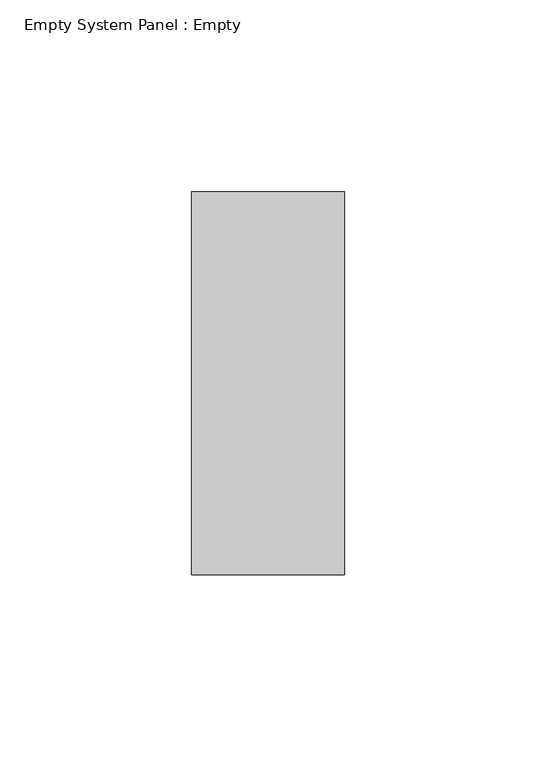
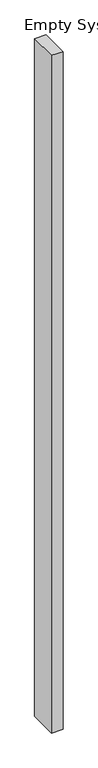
"""IFC4 building model written with IfcOpenShell, lengths in millimetres: plate geometry, Empty System Panel : Empty."""

import ifcopenshell
import ifcopenshell.guid

model = None  # the IFC model being written
_history = None  # IfcOwnerHistory: only IFC2X3 demands one
_inside = {}  # id of a spatial element -> (the spatial element, [elements in it])
_under = {}  # id of a project, library or spatial element -> (it, [spatial elements below it])
_declared = {}  # id of a project -> (the project, [libraries it declares])
_typed = {}  # id of a type object -> (the type object, [elements of that type])
_made_of = {}  # id of a material, layer set ... -> (it, [elements and type objects made of it])


def new_model(schema):
    """Start an empty IFC model of exactly this schema.

    Asked for "IFC4X3", IfcOpenShell would pick the latest addendum, in which some entities
    have other attributes; the version numbers below select the first issue.
    IFC2X3 requires an IfcOwnerHistory on every rooted entity: one is made here for all.
    """
    global model, _history
    if schema == "IFC4X3":
        model = ifcopenshell.file(schema_version=(4, 3, 0, 0))
    else:
        model = ifcopenshell.file(schema=schema)
    _inside.clear()
    _under.clear()
    _declared.clear()
    _typed.clear()
    _made_of.clear()
    _history = None
    if model.schema == "IFC2X3":
        org = make("IfcOrganization", Name="unknown")
        user = make(
            "IfcPersonAndOrganization",
            ThePerson=make("IfcPerson", FamilyName="unknown"),
            TheOrganization=org,
        )
        app = make(
            "IfcApplication",
            ApplicationDeveloper=org,
            Version="unknown",
            ApplicationFullName="unknown",
            ApplicationIdentifier="unknown",
        )
        _history = make(
            "IfcOwnerHistory",
            OwningUser=user,
            OwningApplication=app,
            ChangeAction="ADDED",
            CreationDate=0,
        )
    return model


def make(cls, **values):
    """One entity of the class cls with the attributes given. An attribute that is None is left unset."""
    return model.create_entity(
        cls, **{name: value for name, value in values.items() if value is not None}
    )


def rooted(cls, **values):
    """An entity with a GlobalId (a new one), such as an element, a storey or a relation."""
    return make(cls, GlobalId=ifcopenshell.guid.new(), OwnerHistory=_history, **values)


def si_unit(unit_type, name, prefix=None):
    """IfcSIUnit, for example si_unit("LENGTHUNIT", "METRE", prefix="MILLI")."""
    return make("IfcSIUnit", UnitType=unit_type, Prefix=prefix, Name=name)


def assignment(units):
    """IfcUnitAssignment: the units of a project."""
    return None if units is None else make("IfcUnitAssignment", Units=units)


def point(xyz):
    """IfcCartesianPoint."""
    return None if xyz is None else make("IfcCartesianPoint", Coordinates=xyz)


def direction(xyz):
    """IfcDirection."""
    return None if xyz is None else make("IfcDirection", DirectionRatios=xyz)


def frame(location, z_axis=None, x_axis=None):
    """IfcAxis2Placement3D, a coordinate frame: its origin and axes. An axis left out is left unset."""
    return make(
        "IfcAxis2Placement3D",
        Location=point(location),
        Axis=direction(z_axis),
        RefDirection=direction(x_axis),
    )


def origin():
    """The frame at (0, 0, 0) with its axes left unset."""
    return frame((0.0, 0.0, 0.0))


def origin_with_axes():
    """The frame at (0, 0, 0) with the z axis (0, 0, 1) and the x axis (1, 0, 0) written out."""
    return frame((0.0, 0.0, 0.0), z_axis=(0.0, 0.0, 1.0), x_axis=(1.0, 0.0, 0.0))


def place(relative_to, where):
    """IfcLocalPlacement: puts the frame where relative to a parent placement (None: the world)."""
    return make(
        "IfcLocalPlacement", PlacementRelTo=relative_to, RelativePlacement=where
    )


def context(
    kind, dimensions, precision=None, world=None, true_north=None, identifier=None
):
    """IfcGeometricRepresentationContext, for example the 3D "Model" context."""
    return make(
        "IfcGeometricRepresentationContext",
        ContextIdentifier=identifier,
        ContextType=kind,
        CoordinateSpaceDimension=dimensions,
        Precision=precision,
        WorldCoordinateSystem=world,
        TrueNorth=true_north,
    )


def project(units=None, contexts=None):
    """IfcProject with its units and contexts."""
    return rooted(
        "IfcProject",
        Name="project",
        RepresentationContexts=contexts,
        UnitsInContext=assignment(units),
    )


def spatial(cls, under=None, at=None, **own):
    """A site, building, storey or space (cls), placed at a placement, below another one or the project."""
    s = rooted(cls, ObjectPlacement=at, **own)
    if under is not None:
        _under.setdefault(under.id(), (under, []))[1].append(s)
    return s


def polyline(points):
    """IfcPolyline through the points."""
    return make("IfcPolyline", Points=[point(p) for p in points])


def outline(outer, holes=None, kind="AREA"):
    """IfcArbitraryClosedProfileDef: a profile drawn as a closed curve; with holes, ...WithVoids."""
    if holes is None:
        return make("IfcArbitraryClosedProfileDef", ProfileType=kind, OuterCurve=outer)
    return make(
        "IfcArbitraryProfileDefWithVoids",
        ProfileType=kind,
        OuterCurve=outer,
        InnerCurves=holes,
    )


def extrude(swept, where, along, depth):
    """IfcExtrudedAreaSolid: the profile swept, set in the frame where, extruded along a direction by depth."""
    return make(
        "IfcExtrudedAreaSolid",
        SweptArea=swept,
        Position=where,
        ExtrudedDirection=direction(along),
        Depth=depth,
    )


def shape(context_of_items, identifier, shape_type, items):
    """IfcShapeRepresentation: the items that make up one representation, for example the "Body"."""
    return make(
        "IfcShapeRepresentation",
        ContextOfItems=context_of_items,
        RepresentationIdentifier=identifier,
        RepresentationType=shape_type,
        Items=items,
    )


def source(mapping_origin, context_of_items, identifier, shape_type, items):
    """IfcRepresentationMap: a shape defined once, which mapped items show again and again."""
    return make(
        "IfcRepresentationMap",
        MappingOrigin=mapping_origin,
        MappedRepresentation=shape(context_of_items, identifier, shape_type, items),
    )


def transform(
    local_origin,
    x_axis=None,
    y_axis=None,
    z_axis=None,
    scale=None,
    scale2=None,
    scale3=None,
    uniform=True,
):
    """IfcCartesianTransformationOperator3D, or its non-uniform kind. x_axis, y_axis, z_axis: its Axis1, 2, 3."""
    if uniform:
        return make(
            "IfcCartesianTransformationOperator3D",
            Axis1=direction(x_axis),
            Axis2=direction(y_axis),
            LocalOrigin=point(local_origin),
            Scale=scale,
            Axis3=direction(z_axis),
        )
    return make(
        "IfcCartesianTransformationOperator3DnonUniform",
        Axis1=direction(x_axis),
        Axis2=direction(y_axis),
        LocalOrigin=point(local_origin),
        Scale=scale,
        Axis3=direction(z_axis),
        Scale2=scale2,
        Scale3=scale3,
    )


def mapped(mapping_source, mapping_target):
    """IfcMappedItem: shows the shape of a source again, moved by a transform."""
    return make(
        "IfcMappedItem", MappingSource=mapping_source, MappingTarget=mapping_target
    )


def made_of(thing, what):
    """Note that an element or type object is made of a material, layer set ...; save() writes the relation."""
    if what is not None:
        _made_of.setdefault(what.id(), (what, []))[1].append(thing)
    return thing


def element(
    cls,
    number,
    at=None,
    inside=None,
    cuts=None,
    type_object=None,
    material=None,
    context=None,
    identifier="Body",
    shape_type=None,
    held_by="IfcProductDefinitionShape",
    body=None,
    shapes=None,
    **own,
):
    """One element of the class cls, such as IfcWall. Its Tag is "e" and its number.

    at: its placement. inside: the storey or other place that contains it. cuts: it is an
    opening in that element (IfcRelVoidsElement). A single representation is given by context,
    identifier, shape_type and body (its items); several are given by shapes. held_by: the class
    of the entity that holds the representations. save() writes the other relations.
    """
    e = rooted(cls, Tag="e%d" % number, ObjectPlacement=at, **own)
    if body is not None:
        shapes = [shape(context, identifier, shape_type, body)]
    if shapes is not None:
        e.Representation = make(held_by, Representations=shapes)
    if inside is not None:
        _inside.setdefault(inside.id(), (inside, []))[1].append(e)
    if cuts is not None:
        rooted(
            "IfcRelVoidsElement", RelatingBuildingElement=cuts, RelatedOpeningElement=e
        )
    if type_object is not None:
        _typed.setdefault(type_object.id(), (type_object, []))[1].append(e)
    return made_of(e, material)


def aggregate(whole, parts):
    """IfcRelAggregates: a whole, such as a stair, and the parts it consists of."""
    return rooted("IfcRelAggregates", RelatingObject=whole, RelatedObjects=parts)


def save(model, path):
    """Write the relations noted so far, then the file.

    IfcRelAggregates (storeys below a building ...), IfcRelContainedInSpatialStructure (elements
    in a storey), IfcRelDefinesByType, IfcRelAssociatesMaterial and IfcRelDeclares: one each for
    every whole, place, type object, material and project.
    """
    for whole, parts in _under.values():
        aggregate(whole, parts)
    for where, things in _inside.values():
        rooted(
            "IfcRelContainedInSpatialStructure",
            RelatedElements=things,
            RelatingStructure=where,
        )
    for kind, things in _typed.values():
        rooted("IfcRelDefinesByType", RelatedObjects=things, RelatingType=kind)
    for what, things in _made_of.values():
        rooted("IfcRelAssociatesMaterial", RelatedObjects=things, RelatingMaterial=what)
    for by, libraries in _declared.values():
        rooted("IfcRelDeclares", RelatingContext=by, RelatedDefinitions=libraries)
    model.write(path)


def empty_system_panel_empty_eeb1d5fd(model_context):
    return source(origin(), model_context, "Body", "SweptSolid", [
        extrude(outline(polyline([(19.9999998, -150.0), (-19.9999998, -150.0), (-19.9999998, -50.0), (19.9999998, -50.0), (19.9999998, -150.0)])), origin_with_axes(), (0.0, 0.0, 1.0), 2475.0),
    ])


if __name__ == "__main__":
    model = new_model("IFC4")
    model_context = context("Model", 3, world=origin())
    ifc_project = project(units=[si_unit("LENGTHUNIT", "METRE", prefix="MILLI")], contexts=[model_context])
    site = spatial("IfcSite", under=ifc_project)
    building = spatial("IfcBuilding", under=site)
    placement = place(None, origin())
    empty_system_panel_empty_shape = empty_system_panel_empty_eeb1d5fd(model_context)
    element("IfcPlate", 1, ObjectType="Empty System Panel : Empty", at=placement, inside=building, context=model_context, shape_type="MappedRepresentation", body=[
        mapped(empty_system_panel_empty_shape, transform((0.0, 0.0, 0.0), x_axis=(1.0, 0.0, 0.0), y_axis=(0.0, 1.0, 0.0), z_axis=(0.0, 0.0, 1.0))),
    ])
    save(model, "model.ifc")
